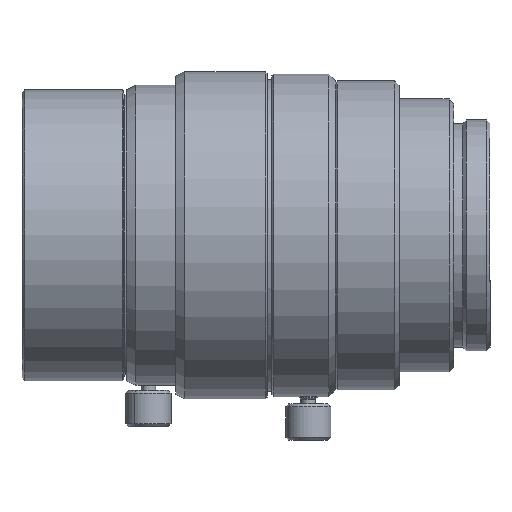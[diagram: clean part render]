
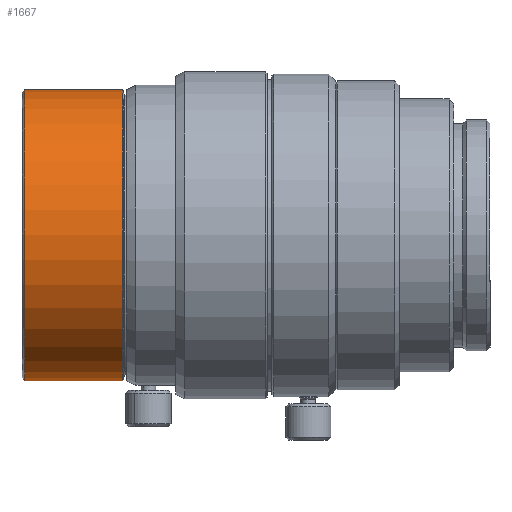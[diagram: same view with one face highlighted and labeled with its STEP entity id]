
A CAD part, top view. The second image highlights one B-rep face of the part: STEP entity #1667.
In plain terms, the highlighted cylindrical face has radius 16 mm (diameter 32 mm), a partial arc.
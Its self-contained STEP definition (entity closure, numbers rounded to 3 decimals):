
#86 = CARTESIAN_POINT ( 'NONE',  ( -64.7, -16., 0. ) ) ;
#117 = EDGE_CURVE ( 'NONE', #1483, #3169, #246, .T. ) ;
#246 = LINE ( 'NONE', #2085, #337 ) ;
#311 = CARTESIAN_POINT ( 'NONE',  ( -16.88, 0., 0. ) ) ;
#337 = VECTOR ( 'NONE', #3250, 1000. ) ;
#413 = AXIS2_PLACEMENT_3D ( 'NONE', #2384, #460, #1281 ) ;
#451 = CYLINDRICAL_SURFACE ( 'NONE', #3603, 16. ) ;
#460 = DIRECTION ( 'NONE',  ( 1., 0., 0. ) ) ;
#521 = EDGE_CURVE ( 'NONE', #3169, #2051, #2047, .T. ) ;
#598 = DIRECTION ( 'NONE',  ( 0., 1., 0. ) ) ;
#610 = CIRCLE ( 'NONE', #413, 16. ) ;
#727 = LINE ( 'NONE', #3394, #2982 ) ;
#858 = DIRECTION ( 'NONE',  ( 1., 0., 0. ) ) ;
#1081 = CARTESIAN_POINT ( 'NONE',  ( -64.7, 16., 0. ) ) ;
#1084 = EDGE_CURVE ( 'NONE', #1220, #2051, #727, .T. ) ;
#1157 = DIRECTION ( 'NONE',  ( 0., 1., 0. ) ) ;
#1220 = VERTEX_POINT ( 'NONE', #86 ) ;
#1281 = DIRECTION ( 'NONE',  ( 0., 1., 0. ) ) ;
#1483 = VERTEX_POINT ( 'NONE', #1081 ) ;
#1586 = ORIENTED_EDGE ( 'NONE', *, *, #1084, .T. ) ;
#1601 = CARTESIAN_POINT ( 'NONE',  ( -53.9, 16., 0. ) ) ;
#1667 = ADVANCED_FACE ( 'NONE', ( #2879 ), #451, .T. ) ;
#1734 = ORIENTED_EDGE ( 'NONE', *, *, #521, .F. ) ;
#2047 = CIRCLE ( 'NONE', #3158, 16. ) ;
#2051 = VERTEX_POINT ( 'NONE', #2312 ) ;
#2085 = CARTESIAN_POINT ( 'NONE',  ( -16.88, 16., 0. ) ) ;
#2273 = DIRECTION ( 'NONE',  ( 1., 0., 0. ) ) ;
#2287 = CARTESIAN_POINT ( 'NONE',  ( -53.9, 0., 0. ) ) ;
#2312 = CARTESIAN_POINT ( 'NONE',  ( -53.9, -16., 0. ) ) ;
#2384 = CARTESIAN_POINT ( 'NONE',  ( -64.7, 0., 0. ) ) ;
#2879 = FACE_OUTER_BOUND ( 'NONE', #3470, .T. ) ;
#2962 = ORIENTED_EDGE ( 'NONE', *, *, #117, .F. ) ;
#2982 = VECTOR ( 'NONE', #858, 1000. ) ;
#3117 = DIRECTION ( 'NONE',  ( 1., 0., 0. ) ) ;
#3158 = AXIS2_PLACEMENT_3D ( 'NONE', #2287, #3117, #1157 ) ;
#3169 = VERTEX_POINT ( 'NONE', #1601 ) ;
#3250 = DIRECTION ( 'NONE',  ( 1., 0., 0. ) ) ;
#3394 = CARTESIAN_POINT ( 'NONE',  ( -16.88, -16., 0. ) ) ;
#3470 = EDGE_LOOP ( 'NONE', ( #3548, #1586, #1734, #2962 ) ) ;
#3548 = ORIENTED_EDGE ( 'NONE', *, *, #3663, .T. ) ;
#3603 = AXIS2_PLACEMENT_3D ( 'NONE', #311, #2273, #598 ) ;
#3663 = EDGE_CURVE ( 'NONE', #1483, #1220, #610, .T. ) ;
